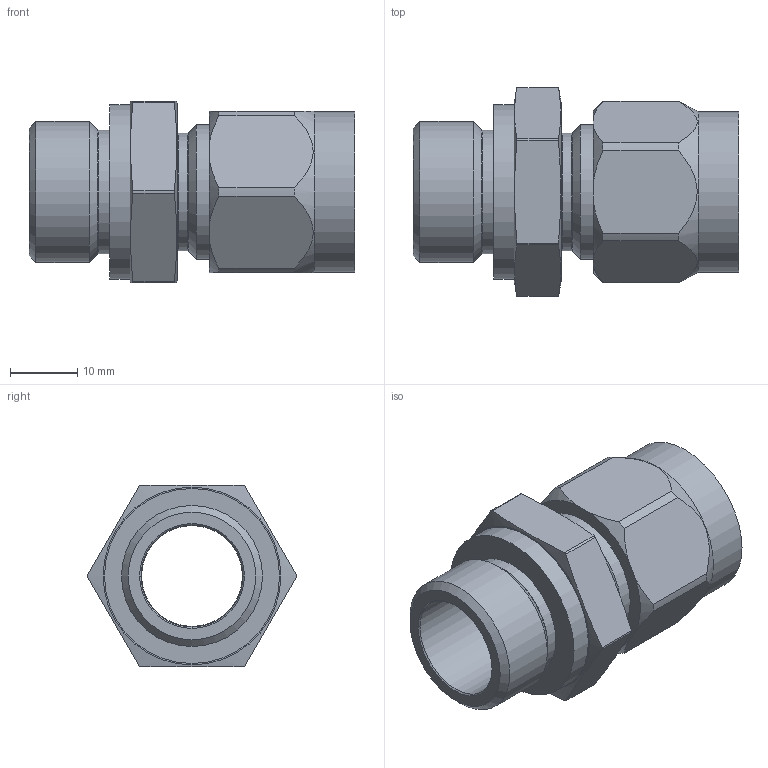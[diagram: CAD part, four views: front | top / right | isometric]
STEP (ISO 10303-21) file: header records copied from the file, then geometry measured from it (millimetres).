
FILE_DESCRIPTION(/* description */ (''),/* implementation_level */ '2;1');
FILE_NAME(/* name */ 'DGV_513968.stp',/* time_stamp */ '2025-09-24T13:58:52+02:00',/* author */ (''),/* organization */ (''),/* preprocessor_version */ 'ST-DEVELOPER v19.4',/* originating_system */ 'SIEMENS PLM Software NX2306.8501',/* authorisation */ '');
FILE_SCHEMA (('AP203_CONFIGURATION_CONTROLLED_3D_DESIGN_OF_MECHANICAL_PARTS_AND_ASSEMBLIES_MIM_LF { 1 0 10303 403 2 1 2}'));
Length unit declared in the file: millimetre
Products named in the file (1): 02_objects
Bounding box: 48.4 x 31 x 27 mm (x, y, z)
Volume: 12724.8 mm3; surface area: 8829.8 mm2
Topology: 2 solids, 2 shells, 70 faces, 175 edges, 114 vertices
Faces by surface type: cylinder 25, plane 23, cone 19, torus 3
Full cylindrical faces by diameter (mm): 15 x1, 15.17 x1, 17 x1, 17.5 x1, 18.4 x1, 18.5 x1, 20 x1, 20.96 x1, 23.8 x1, 26 x1
Entity records: 2051 total; most frequent: CARTESIAN_POINT 456, DIRECTION 314, ORIENTED_EDGE 280, EDGE_CURVE 140, AXIS2_PLACEMENT_3D 137, VERTEX_POINT 103, EDGE_LOOP 101, ADVANCED_FACE 70
